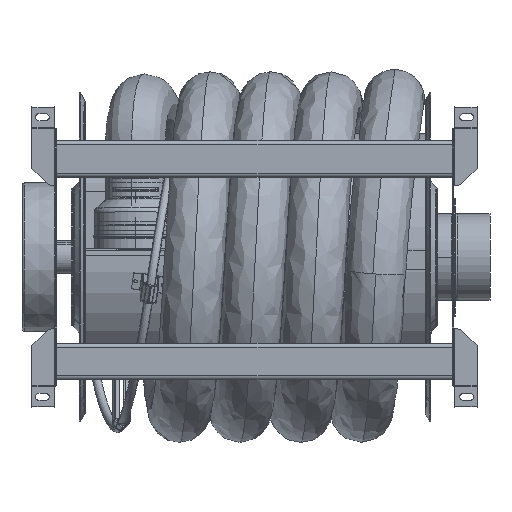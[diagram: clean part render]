
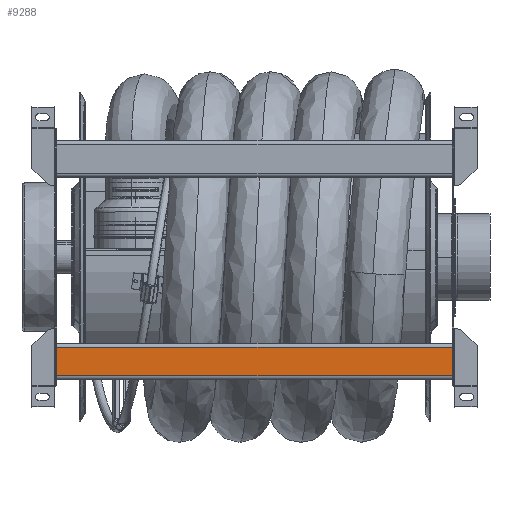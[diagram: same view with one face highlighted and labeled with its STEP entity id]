
A CAD part, front view. The second image highlights one B-rep face of the part: STEP entity #9288.
In plain terms, the highlighted planar face has unit normal (0, -1, 0) as drawn and (0, 1, 0) by its records, which use the part's own axes.
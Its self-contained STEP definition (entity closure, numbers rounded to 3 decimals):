
#8672=DIRECTION('',(0.,0.,1.));
#8673=VECTOR('',#8672,51.903);
#8674=CARTESIAN_POINT('',(0.,0.,-19.));
#8675=LINE('',#8674,#8673);
#8909=DIRECTION('',(0.,0.,1.));
#8910=VECTOR('',#8909,51.903);
#8911=CARTESIAN_POINT('',(-722.,0.,-19.));
#8912=LINE('',#8911,#8910);
#8959=DIRECTION('',(-1.,0.,0.));
#8960=VECTOR('',#8959,722.);
#8961=CARTESIAN_POINT('',(0.,0.,32.903));
#8962=LINE('',#8961,#8960);
#8966=DIRECTION('',(-1.,0.,0.));
#8967=VECTOR('',#8966,722.);
#8968=CARTESIAN_POINT('',(0.,0.,-19.));
#8969=LINE('',#8968,#8967);
#9002=CARTESIAN_POINT('',(-722.,0.,32.903));
#9004=VERTEX_POINT('',#9002);
#9005=CARTESIAN_POINT('',(0.,0.,32.903));
#9006=VERTEX_POINT('',#9005);
#9009=CARTESIAN_POINT('',(-722.,0.,-19.));
#9011=VERTEX_POINT('',#9009);
#9015=CARTESIAN_POINT('',(0.,0.,-19.));
#9016=VERTEX_POINT('',#9015);
#9276=CARTESIAN_POINT('',(0.,0.,-26.));
#9277=DIRECTION('',(0.,1.,0.));
#9278=DIRECTION('',(0.,0.,1.));
#9279=AXIS2_PLACEMENT_3D('',#9276,#9277,#9278);
#9280=PLANE('',#9279);
#9281=ORIENTED_EDGE('',*,*,#9269,.T.);
#9282=ORIENTED_EDGE('',*,*,#9228,.F.);
#9284=ORIENTED_EDGE('',*,*,#9283,.F.);
#9285=ORIENTED_EDGE('',*,*,#9076,.T.);
#9286=EDGE_LOOP('',(#9281,#9282,#9284,#9285));
#9287=FACE_OUTER_BOUND('',#9286,.F.);
#9076=EDGE_CURVE('',#9016,#9006,#8675,.T.);
#9228=EDGE_CURVE('',#9011,#9004,#8912,.T.);
#9269=EDGE_CURVE('',#9006,#9004,#8962,.T.);
#9283=EDGE_CURVE('',#9016,#9011,#8969,.T.);
#9288=ADVANCED_FACE('',(#9287),#9280,.T.);
